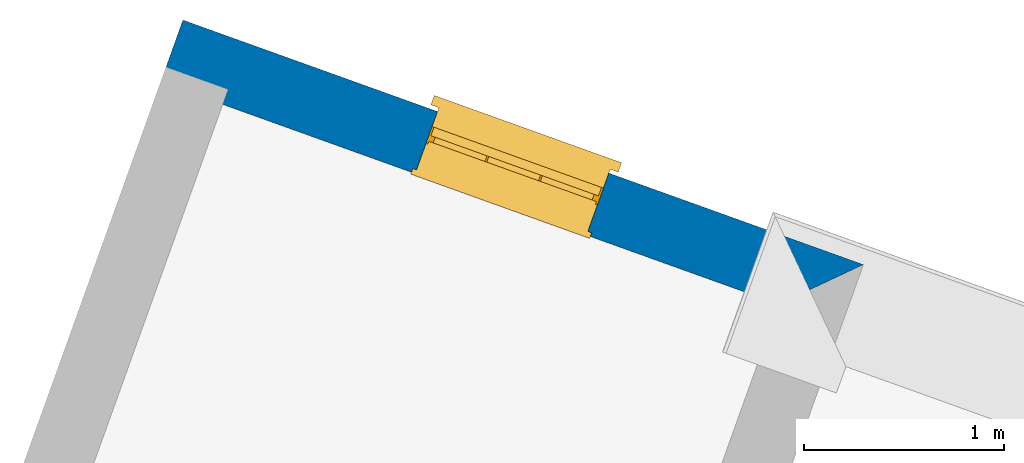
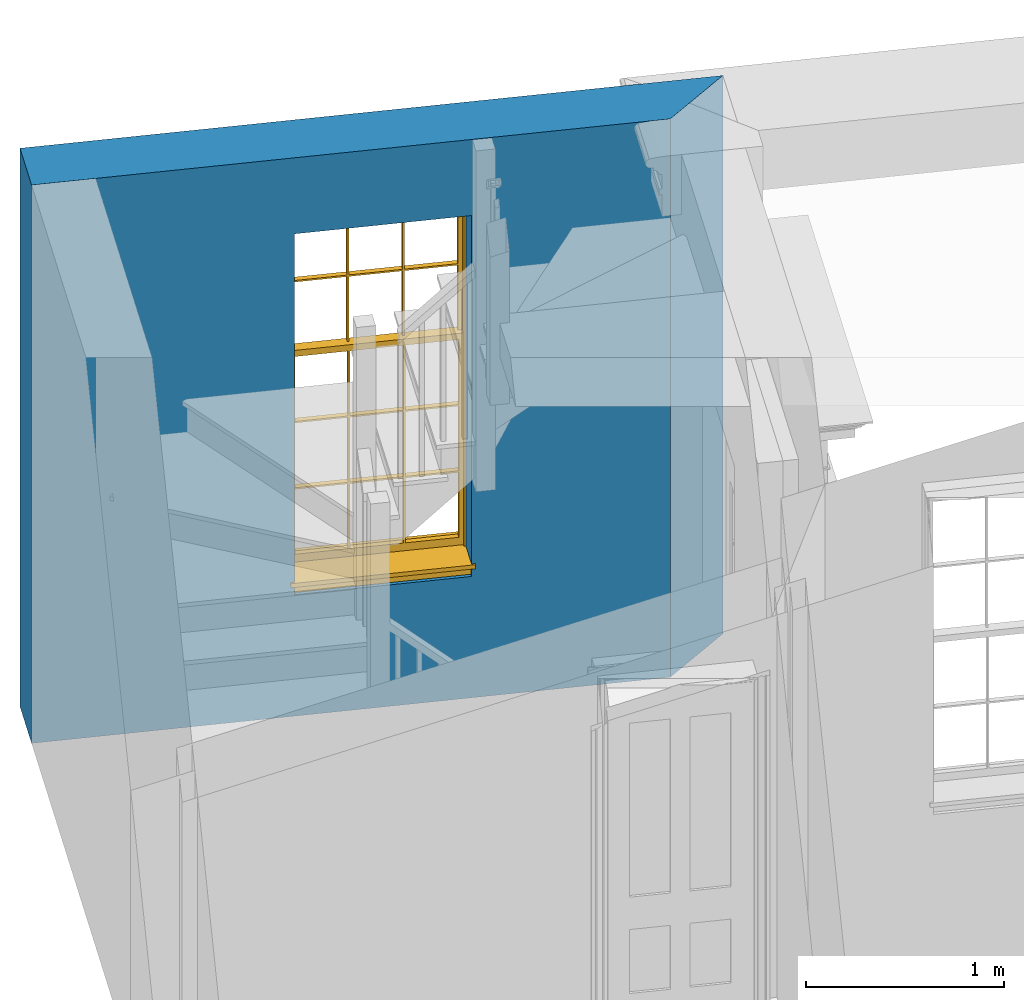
# One storey, part 7 of 8: 1 wall, 1 window, 1 opening.
"""IFC4 building model written with IfcOpenShell, lengths in metres."""

from ifc_helpers import new_model, si_unit, frame, origin, origin_with_axes, place, context, subcontext, project, spatial, polyline, outline, extrude, faceted_brep, source, transform, mapped, material, layer, layer_set, layer_usage, type_object, type_shapes, element, fill, save


model = new_model("IFC4")

# Units and contexts
model_context = context("Model", 3, world=origin_with_axes())
body_context = subcontext(model_context, "Body", "Model", "MODEL_VIEW")
ifc_project = project(units=[si_unit("PLANEANGLEUNIT", "RADIAN"), si_unit("MASSUNIT", "GRAM", prefix="KILO"), si_unit("FORCEUNIT", "NEWTON", prefix="KILO"), si_unit("LENGTHUNIT", "METRE"), si_unit("AREAUNIT", "SQUARE_METRE"), si_unit("VOLUMEUNIT", "CUBIC_METRE")], contexts=[model_context, model_context])

# Sites, building, storey
site_1_placement = place(None, origin_with_axes())
site_1 = spatial("IfcSite", under=ifc_project, at=site_1_placement, Name="Tamar")
site_2_placement = place(site_1_placement, origin_with_axes())
site_2 = spatial("IfcSite", under=site_1, at=site_2_placement, Name="Site plot-25", CompositionType="ELEMENT")
building_placement = place(None, origin_with_axes())
building = spatial("IfcBuilding", under=site_2, at=building_placement, Name="Building plot-25", CompositionType="ELEMENT")
storey_placement = place(None, frame((0.0, 0.0, 26.0), z_axis=(0.0, 0.0, 1.0), x_axis=(1.0, 0.0, 0.0)))
storey = spatial("IfcBuildingStorey", under=building, at=storey_placement, Name="plot-25 0", CompositionType="ELEMENT", Elevation=26.0)

# Wall, opening, window
ifc_material = material(Name="Masonry")
ifc_layer = layer(ifc_material, 0.33, ventilated=False)
ifc_layer_set = layer_set([ifc_layer], Name="exterior_0.08_0.25")
ifc_layer_usage = layer_usage(ifc_layer_set, "AXIS2", "POSITIVE", -0.25)
wall_type = type_object("IfcWallType", Name="exterior_0.08_0.25", PredefinedType="SOLIDWALL", material=ifc_layer_set)
wall_placement = place(storey_placement, frame((279.24782099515, 276.742915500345, 0.0), z_axis=(0.0, 0.0, 1.0), x_axis=(-0.941087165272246, 0.338164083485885, 0.0)))
wall = element("IfcWall", 1, at=wall_placement, inside=storey, type_object=wall_type, material=ifc_layer_usage, Name="exterior", context=body_context, shape_type="SweptSolid", body=[
    extrude(outline(polyline([(0.0800000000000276, 0.0800000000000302), (-0.250000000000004, -0.249999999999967), (3.36514466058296, -0.250000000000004), (3.36514466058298, 0.0800000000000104), (0.0800000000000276, 0.0800000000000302)])), origin_with_axes(), (0.0, 0.0, 1.0), 3.45),
])
opening_placement = place(wall_placement, frame((1.10257233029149, 0.0, 0.75)))
opening = element("IfcOpeningElement", 2, at=opening_placement, cuts=wall, Name="My Opening", ObjectType="Opening", context=body_context, shape_type="SweptSolid", body=[
    extrude(outline(polyline([(0.0, -0.270000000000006), (0.910000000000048, -0.269999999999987), (0.910000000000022, 1.09999999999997), (-2.57571741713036e-14, 1.09999999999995), (0.0, -0.270000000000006)])), origin_with_axes(), (0.0, 0.0, 1.0), 2.23),
])
window_type = type_object("IfcWindowType", Name="sash_big_taller", PartitioningType="DOUBLE_PANEL_HORIZONTAL", PredefinedType="NOTDEFINED")
shared_shape = source(origin(), body_context, "Body", "Brep", [
    faceted_brep([(0.033125, 0.145, 1.385209), (0.01, 0.145, 1.385209), (0.033125, 0.145, 1.786042), (0.876875, 0.145, 1.385209), (0.876875, 0.145, 1.786042), (0.9, 0.145, 1.385209), (0.876875, 0.145, 1.796042), (0.876875, 0.145, 2.196875), (0.9, 0.145, 2.22), (0.033125, 0.145, 2.196875), (0.033125, 0.145, 1.796042), (0.01, 0.145, 2.22), (0.876875, 0.115, 1.786042), (0.876875, 0.115, 1.385209), (0.9, 0.115, 1.347084), (0.033125, 0.115, 2.196875), (0.01, 0.115, 2.22), (0.033125, 0.115, 1.796042), (0.01, 0.115, 1.347084), (0.033125, 0.115, 1.385209), (0.033125, 0.115, 1.786042), (0.876875, 0.115, 2.196875), (0.876875, 0.115, 1.796042), (0.9, 0.115, 2.22), (0.033125, 0.145, 1.347084), (0.01, 0.145, 1.347084), (0.033125, 0.145, 0.94625), (0.876875, 0.145, 1.347084), (0.876875, 0.145, 0.94625), (0.9, 0.145, 1.347084), (0.876875, 0.145, 0.52625), (0.876875, 0.145, 0.125417), (0.9, 0.145, 0.077167), (0.033125, 0.145, 0.125417), (0.033125, 0.145, 0.52625), (0.01, 0.145, 0.077167), (-0.0425, 0.0, 0.01), (-0.0425, -0.05, 0.001667), (0.0, 0.0, 0.01), (0.9525, 0.0, 0.01), (0.91, 0.0, 0.01), (0.9525, -0.05, 0.001667), (-0.02, 0.33, 0.077167), (0.0, 0.33, 0.077167), (-0.02, 0.36, 0.077167), (0.0, 0.19, 0.077167), (0.01, 0.19, 0.077167), (0.91, 0.19, 0.077167), (0.91, 0.33, 0.077167), (0.9, 0.19, 0.077167), (0.93, 0.33, 0.077167), (0.93, 0.36, 0.077167), (0.01, 0.175, 1.385209), (0.9, 0.175, 1.385209), (0.876875, 0.175, 0.125417), (0.876875, 0.175, 0.52625), (0.9, 0.175, 0.077167), (0.876875, 0.175, 0.94625), (0.876875, 0.175, 1.347084), (0.033125, 0.175, 0.125417), (0.01, 0.175, 0.077167), (0.033125, 0.175, 0.52625), (0.033125, 0.175, 1.347084), (0.033125, 0.175, 0.94625), (-0.02, 0.33, 0.052167), (-0.02, 0.36, 0.052167), (0.93, 0.36, 0.052167), (0.93, 0.33, 0.052167), (0.91, 0.33, 0.052167), (0.0, 0.33, 0.052167), (0.91, 0.1, 0.026667), (0.0, 0.1, 0.026667), (-0.0425, -0.05, -0.123333), (0.9525, -0.05, -0.123333), (-0.0425, 0.0, -0.123333), (0.9525, 0.0, -0.123333), (0.01, 0.19, 2.22), (0.9, 0.19, 2.22), (0.0, 0.19, 2.23), (0.91, 0.19, 2.23), (0.01, 0.1, 0.077167), (0.9, 0.1, 0.077167), (0.592292, 0.145, 0.125417), (0.592292, 0.175, 0.125417), (0.317708, 0.175, 0.125417), (0.317708, 0.145, 0.125417), (0.592292, 0.145, 0.53625), (0.317708, 0.145, 0.53625), (0.317708, 0.145, 0.52625), (0.592292, 0.145, 0.52625), (0.592292, 0.175, 0.53625), (0.317708, 0.175, 0.53625), (0.592292, 0.115, 1.796042), (0.592292, 0.145, 1.796042), (0.317708, 0.145, 1.796042), (0.317708, 0.115, 1.796042), (0.317708, 0.115, 1.786042), (0.592292, 0.115, 1.786042), (0.317708, 0.145, 1.786042), (0.592292, 0.145, 1.786042), (0.602292, 0.115, 1.786042), (0.592292, 0.115, 1.385209), (0.602292, 0.115, 1.385209), (0.602292, 0.145, 1.385209), (0.592292, 0.145, 1.385209), (0.602292, 0.145, 1.786042), (0.876875, 0.145, 0.53625), (0.876875, 0.175, 0.53625), (0.602292, 0.175, 0.53625), (0.602292, 0.145, 0.53625), (0.317708, 0.175, 0.52625), (0.307708, 0.175, 0.125417), (0.307708, 0.175, 0.52625), (0.602292, 0.175, 0.52625), (0.602292, 0.175, 0.125417), (0.592292, 0.175, 0.52625), (0.307708, 0.175, 0.53625), (0.033125, 0.175, 0.53625), (0.317708, 0.175, 1.347084), (0.317708, 0.175, 0.94625), (0.307708, 0.175, 0.94625), (0.307708, 0.175, 1.347084), (0.602292, 0.175, 1.347084), (0.602292, 0.175, 0.94625), (0.592292, 0.175, 0.94625), (0.592292, 0.175, 1.347084), (0.307708, 0.145, 0.52625), (0.307708, 0.145, 0.125417), (0.307708, 0.145, 0.53625), (0.033125, 0.145, 0.53625), (0.307708, 0.145, 1.347084), (0.307708, 0.145, 0.94625), (0.592292, 0.145, 1.347084), (0.592292, 0.145, 0.94625), (0.317708, 0.145, 0.94625), (0.317708, 0.145, 1.347084), (0.602292, 0.145, 0.94625), (0.602292, 0.145, 1.347084), (0.602292, 0.145, 0.52625), (0.602292, 0.145, 0.125417), (0.307708, 0.115, 1.796042), (0.307708, 0.115, 1.786042), (0.307708, 0.115, 1.385209), (0.317708, 0.115, 1.385209), (0.317708, 0.115, 2.196875), (0.307708, 0.115, 2.196875), (0.602292, 0.115, 2.196875), (0.592292, 0.115, 2.196875), (0.602292, 0.115, 1.796042), (0.602292, 0.145, 1.796042), (0.307708, 0.145, 1.796042), (0.307708, 0.145, 2.196875), (0.317708, 0.145, 2.196875), (0.592292, 0.145, 2.196875), (0.602292, 0.145, 2.196875), (0.307708, 0.145, 1.786042), (0.317708, 0.145, 1.385209), (0.307708, 0.145, 1.385209), (0.876875, 0.175, 0.93625), (0.033125, 0.175, 0.93625), (0.033125, 0.145, 0.93625), (0.876875, 0.145, 0.93625), (0.91, 0.1, 2.23), (0.9, 0.1, 2.22), (0.01, 0.1, 2.22), (0.0, 0.1, 2.23), (0.91, 0.0, 0.0), (0.0, 0.0, 0.0), (0.91, 0.33, 0.0), (0.0, 0.33, 0.0), (0.317708, 0.145, 0.93625), (0.592292, 0.145, 0.93625), (0.317708, 0.175, 0.93625), (0.307708, 0.175, 0.93625), (0.602292, 0.175, 0.93625), (0.592292, 0.175, 0.93625), (0.307708, 0.145, 0.93625), (0.602292, 0.145, 0.93625)], [[[0, 1, 2]], [[3, 4, 5]], [[6, 7, 8]], [[9, 10, 11]], [[12, 13, 14]], [[15, 16, 17]], [[18, 19, 20]], [[21, 22, 23]], [[24, 25, 26]], [[27, 28, 29]], [[30, 31, 32]], [[33, 34, 35]], [[14, 27, 29]], [[25, 24, 18]], [[36, 37, 38]], [[39, 40, 41]], [[42, 43, 44]], [[45, 46, 43]], [[47, 48, 49]], [[50, 51, 48]], [[1, 0, 52]], [[5, 53, 3]], [[54, 55, 56]], [[57, 58, 53]], [[59, 60, 61]], [[62, 63, 52]], [[48, 43, 46, 49]], [[51, 44, 43, 48]], [[64, 42, 44, 65]], [[65, 44, 51, 66]], [[66, 51, 50, 67]], [[65, 66, 68, 69]], [[60, 56, 49, 46]], [[70, 71, 38, 40]], [[37, 41, 40, 38]], [[37, 72, 73, 41]], [[74, 75, 73, 72]], [[8, 11, 76, 77]], [[76, 78, 79, 77]], [[32, 35, 80, 81]], [[81, 80, 71, 70]], [[82, 83, 84, 85]], [[86, 87, 88, 89]], [[86, 90, 91, 87]], [[92, 93, 94, 95]], [[92, 95, 96, 97]], [[96, 98, 99, 97]], [[100, 97, 101, 102]], [[103, 104, 99, 105]], [[97, 99, 104, 101]], [[102, 103, 105, 100]], [[106, 107, 108, 109]], [[110, 84, 111, 112]], [[113, 114, 83, 115]], [[116, 112, 61, 117]], [[90, 115, 110, 91]], [[118, 119, 120, 121]], [[122, 123, 124, 125]], [[113, 108, 107, 55]], [[126, 112, 111, 127]], [[34, 61, 112, 126]], [[89, 115, 83, 82]], [[88, 110, 115, 89]], [[85, 84, 110, 88]], [[128, 116, 117, 129]], [[130, 121, 120, 131]], [[132, 125, 124, 133]], [[134, 119, 118, 135]], [[136, 123, 122, 137]], [[138, 113, 55, 30]], [[139, 114, 113, 138]], [[138, 30, 106, 109]], [[88, 126, 127, 85]], [[138, 89, 82, 139]], [[137, 132, 133, 136]], [[128, 129, 34, 126]], [[135, 130, 131, 134]], [[140, 17, 20, 141]], [[96, 141, 142, 143]], [[144, 145, 140, 95]], [[146, 147, 92, 148]], [[100, 12, 22, 148]], [[149, 6, 4, 105]], [[94, 150, 151, 152]], [[149, 93, 153, 154]], [[99, 98, 94, 93]], [[155, 2, 10, 150]], [[156, 157, 155, 98]], [[141, 155, 157, 142]], [[20, 2, 155, 141]], [[143, 156, 98, 96]], [[140, 150, 10, 17]], [[145, 151, 150, 140]], [[147, 153, 93, 92]], [[95, 94, 152, 144]], [[22, 6, 149, 148]], [[148, 149, 154, 146]], [[100, 105, 4, 12]], [[109, 86, 89, 138]], [[108, 113, 115, 90]], [[91, 110, 112, 116]], [[87, 128, 126, 88]], [[97, 100, 148, 92]], [[141, 96, 95, 140]], [[98, 155, 150, 94]], [[105, 99, 93, 149]], [[143, 101, 104, 156]], [[135, 118, 125, 132]], [[144, 152, 153, 147]], [[127, 111, 59, 33]], [[15, 9, 151, 145]], [[146, 154, 7, 21]], [[31, 54, 114, 139]], [[36, 74, 72, 37]], [[39, 41, 73, 75]], [[18, 14, 101, 143]], [[23, 16, 144, 147]], [[83, 56, 60, 84]], [[52, 53, 125, 118]], [[53, 52, 156, 104]], [[11, 8, 153, 152]], [[14, 18, 135, 132]], [[2, 1, 11, 10]], [[8, 5, 4, 6]], [[57, 53, 56, 158]], [[60, 52, 63, 159]], [[26, 25, 35, 160]], [[32, 29, 28, 161]], [[14, 23, 22, 12]], [[18, 20, 17, 16]], [[19, 0, 2, 20]], [[17, 10, 9, 15]], [[12, 4, 3, 13]], [[21, 7, 6, 22]], [[27, 58, 57, 28]], [[30, 55, 54, 31]], [[33, 59, 61, 34]], [[26, 63, 62, 24]], [[5, 8, 77, 53]], [[76, 11, 1, 52]], [[46, 45, 78, 76]], [[49, 77, 79, 47]], [[70, 162, 163, 81]], [[71, 80, 164, 165]], [[19, 142, 157, 0]], [[102, 13, 3, 103]], [[121, 130, 24, 62]], [[29, 32, 81, 14]], [[80, 35, 25, 18]], [[60, 46, 76, 52]], [[77, 49, 56, 53]], [[23, 14, 81, 163]], [[16, 164, 80, 18]], [[35, 85, 127]], [[127, 33, 35]], [[139, 82, 32]], [[32, 31, 139]], [[32, 82, 85, 35]], [[102, 101, 14]], [[14, 13, 102]], [[18, 143, 142]], [[142, 19, 18]], [[146, 21, 23]], [[23, 147, 146]], [[16, 15, 145]], [[145, 144, 16]], [[11, 152, 151]], [[151, 9, 11]], [[154, 153, 8]], [[8, 7, 154]], [[23, 163, 164, 16]], [[162, 165, 164, 163]], [[52, 118, 121]], [[121, 62, 52]], [[125, 53, 122]], [[58, 122, 53]], [[27, 137, 122, 58]], [[56, 83, 114]], [[114, 54, 56]], [[111, 84, 60]], [[60, 59, 111]], [[137, 27, 14]], [[14, 132, 137]], [[130, 135, 18]], [[18, 24, 130]], [[157, 156, 52]], [[52, 0, 157]], [[103, 3, 53]], [[53, 104, 103]], [[79, 78, 165, 162]], [[78, 45, 71, 165]], [[162, 70, 47, 79]], [[166, 75, 74, 167]], [[68, 66, 67]], [[48, 68, 67, 50]], [[69, 64, 65]], [[42, 64, 69, 43]], [[69, 68, 168, 169]], [[70, 68, 48, 47]], [[166, 168, 68, 70]], [[43, 69, 71, 45]], [[69, 169, 167, 71]], [[168, 166, 167, 169]], [[38, 167, 74, 36]], [[71, 167, 38]], [[39, 75, 166, 40]], [[40, 166, 70]], [[133, 134, 170, 171]], [[133, 124, 119, 134]], [[28, 57, 123, 136]], [[172, 91, 116, 173]], [[174, 108, 90, 175]], [[120, 173, 159, 63]], [[124, 175, 172, 119]], [[174, 123, 57, 158]], [[176, 173, 116, 128]], [[160, 159, 173, 176]], [[171, 175, 90, 86]], [[170, 172, 175, 171]], [[87, 91, 172, 170]], [[131, 120, 63, 26]], [[177, 174, 158, 161]], [[109, 108, 174, 177]], [[177, 161, 28, 136]], [[170, 176, 128, 87]], [[177, 171, 86, 109]], [[131, 26, 160, 176]], [[136, 133, 171, 177]], [[123, 174, 175, 124]], [[119, 172, 173, 120]], [[134, 131, 176, 170]], [[129, 117, 159, 160]], [[161, 158, 107, 106]], [[35, 34, 129]], [[35, 129, 160]], [[32, 106, 30]], [[32, 161, 106]], [[56, 55, 107]], [[56, 107, 158]], [[60, 117, 61]], [[60, 159, 117]]]),
])
type_shapes(window_type, [shared_shape])
window_placement = place(storey_placement, frame((278.30150862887, 277.369859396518, 0.75), z_axis=(0.0, 0.0, 1.0), x_axis=(-0.856389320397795, 0.307729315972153, 0.0)))
window = element("IfcWindow", 3, at=window_placement, inside=storey, type_object=window_type, Name="circulation street window", OverallHeight=2.23, OverallWidth=0.91, context=body_context, shape_type="MappedRepresentation", body=[
    mapped(shared_shape, transform((0.0, 0.0, 0.0), scale=1.0)),
])
fill(opening, window)

save(model, "model.ifc")
